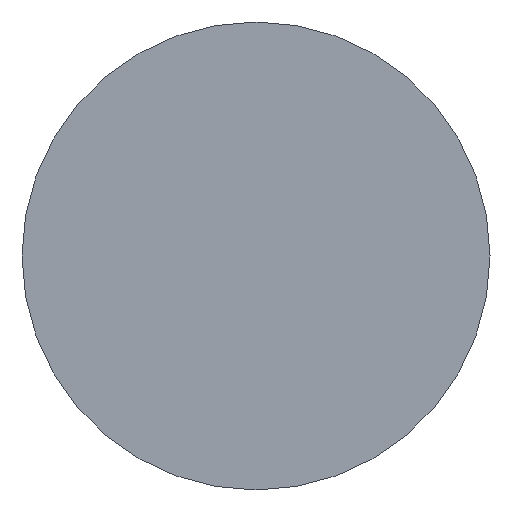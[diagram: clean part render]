
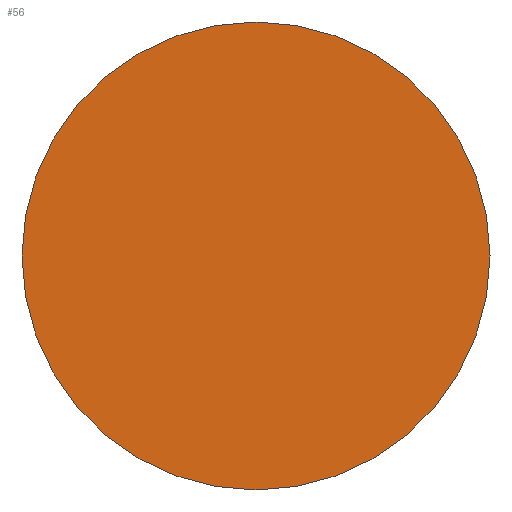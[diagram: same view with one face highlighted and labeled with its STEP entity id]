
A CAD part, top view. The second image highlights one B-rep face of the part: STEP entity #56.
In plain terms, the highlighted planar face has unit normal (0, 0, 1).
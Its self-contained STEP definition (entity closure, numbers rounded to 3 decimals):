
#56=ADVANCED_FACE('',(#115),#116,.T.);
#115=FACE_OUTER_BOUND('',#210,.T.);
#116=PLANE('',#211);
#210=EDGE_LOOP('',(#277));
#211=AXIS2_PLACEMENT_3D('',#278,#279,#280);
#277=ORIENTED_EDGE('',*,*,#302,.F.);
#278=CARTESIAN_POINT('',(-6.75,0.0,0.0));
#279=DIRECTION('',(0.0,0.,1.0));
#280=DIRECTION('',(1.0,0.0,0.0));
#302=EDGE_CURVE('',#336,#336,#337,.T.);
#336=VERTEX_POINT('',#374);
#337=CIRCLE('',#375,13.5);
#374=CARTESIAN_POINT('',(0.0,-13.5,0.));
#375=AXIS2_PLACEMENT_3D('',#418,#419,#420);
#418=CARTESIAN_POINT('',(0.0,0.0,0.0));
#419=DIRECTION('',(0.0,0.,-1.0));
#420=DIRECTION('',(0.0,-1.0,0.));
